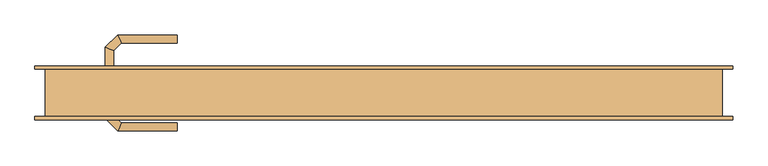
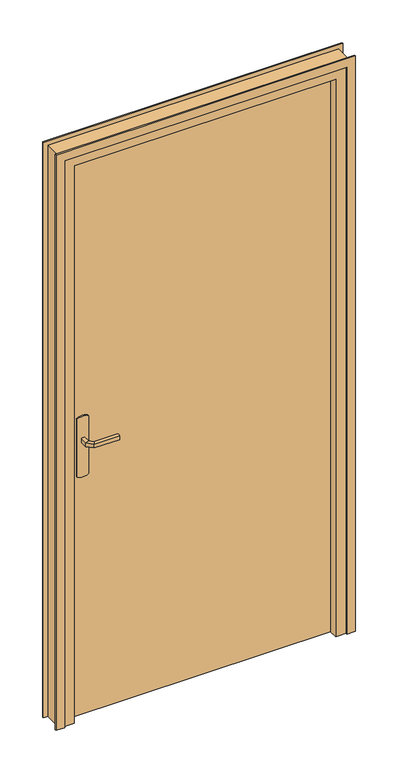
"""IFC4 building model written with IfcOpenShell, lengths in millimetres: door geometry, @_Int. Simple : @_PP (0.93m x 2.04m)."""

from ifc_helpers import new_model, si_unit, point, frame, frame_2d, origin, origin_with_axes, place, context, project, spatial, polyline, circle_curve, ellipse_curve, trimmed, segment, composite_curve, outline, extrude, faceted_brep, source, transform, mapped, element, save
from ifc_brep_helpers import plane_surface, cylinder_surface, advanced_brep


def door_e56fa8e8(model_context):
    return source(origin(), model_context, "Body", "SolidModel", [
        extrude(outline(composite_curve([segment(trimmed(circle_curve(frame_2d((904.6410162, -440.0)), 40.0), [point((870.0, -460.0))], [point((870.0, -420.0))], False, "CARTESIAN"), True, "CONTINUOUS"), segment(polyline([(870.0, -420.0), (1080.0, -420.0)]), True, "CONTINUOUS"), segment(trimmed(circle_curve(frame_2d((1045.3589838, -440.0)), 40.0), [point((1080.0, -420.0))], [point((1080.0, -460.0))], False, "CARTESIAN"), True, "CONTINUOUS"), segment(polyline([(1080.0, -460.0), (870.0, -460.0)]), True, "CONTINUOUS")], self_intersect=False)), frame((0.0, 35.0, 0.0), z_axis=(0.0, 1.0, 0.0), x_axis=(0.0, 0.0, 1.0)), (0.0, 0.0, 1.0), 5.0),
        extrude(outline(composite_curve([segment(trimmed(circle_curve(frame_2d((1045.3589838, -440.0)), 40.0), [point((1080.0, -420.0))], [point((1080.0, -460.0))], False, "CARTESIAN"), True, "CONTINUOUS"), segment(polyline([(1080.0, -460.0), (870.0, -460.0)]), True, "CONTINUOUS"), segment(trimmed(circle_curve(frame_2d((904.6410162, -440.0)), 40.0), [point((870.0, -460.0))], [point((870.0, -420.0))], False, "CARTESIAN"), True, "CONTINUOUS"), segment(polyline([(870.0, -420.0), (1080.0, -420.0)]), True, "CONTINUOUS")], self_intersect=False)), frame((0.0, -10.0, 0.0), z_axis=(0.0, 1.0, 0.0), x_axis=(0.0, 0.0, 1.0)), (0.0, 0.0, 1.0), 5.0),
        advanced_brep(
        [(-446.0, 40.0, 1007.0), (-446.0, 40.0, 993.0), (-434.0, 40.0, 993.0), (-434.0, 40.0, 1007.0), (-434.0, 62.680388, 1007.0), (-446.0, 67.6509507, 1007.0), (-434.0, 62.680388, 993.0), (-446.0, 67.6509507, 993.0), (-422.6522273, 74.0281607, 1007.0), (-427.62279, 86.0281607, 1007.0), (-422.6522273, 74.0281607, 993.0), (-427.62279, 86.0281607, 993.0), (-339.9813594, 86.0281607, 1007.0), (-339.9813594, 74.0281607, 1007.0), (-339.9813594, 74.0281607, 993.0), (-339.9813594, 86.0281607, 993.0)],
        [
            (0, 1),
            (1, 2, circle_curve(frame((-440.0, 40.0, 1013.0457722), z_axis=(0.0, -1.0, 0.0), x_axis=(1.0, 0.0, 0.0)), 20.9244589)),
            (2, 3),
            (3, 0, circle_curve(frame((-440.0, 40.0, 986.9542278), z_axis=(0.0, -1.0, 0.0), x_axis=(1.0, 0.0, 0.0)), 20.9244589)),
            (3, 4),
            (4, 5, ellipse_curve(frame((-440.0, 65.1656693, 986.9542278), z_axis=(-0.3826834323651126, -0.9238795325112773, 0.0), x_axis=(0.9238795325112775, -0.38268343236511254, 0.0)), 22.6484711, 20.9244589)),
            (5, 0),
            (2, 6),
            (6, 4),
            (1, 7),
            (7, 6, ellipse_curve(frame((-440.0, 65.1656693, 1013.0457722), z_axis=(-0.3826834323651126, -0.9238795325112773, 0.0), x_axis=(0.9238795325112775, -0.38268343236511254, 0.0)), 22.6484711, 20.9244589)),
            (5, 7),
            (4, 8),
            (8, 9, ellipse_curve(frame((-425.1375086, 80.0281607, 986.9542278), z_axis=(-0.9238795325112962, -0.38268343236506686, 0.0), x_axis=(0.3826834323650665, -0.9238795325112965, 0.0)), 22.6484711, 20.9244589)),
            (9, 5),
            (6, 10),
            (10, 8),
            (7, 11),
            (11, 10, ellipse_curve(frame((-425.1375086, 80.0281607, 1013.0457722), z_axis=(-0.9238795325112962, -0.38268343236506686, 0.0), x_axis=(0.3826834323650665, -0.9238795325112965, 0.0)), 22.6484711, 20.9244589)),
            (9, 11),
            (12, 13, circle_curve(frame((-339.9813594, 80.0281607, 986.9542278), z_axis=(1.0, 0.0, 0.0), x_axis=(0.0, -1.0, 0.0)), 20.9244589)),
            (13, 14),
            (14, 15, circle_curve(frame((-339.9813594, 80.0281607, 1013.0457722), z_axis=(1.0, 0.0, 0.0), x_axis=(0.0, -1.0, 0.0)), 20.9244589)),
            (15, 12),
            (8, 13),
            (12, 9),
            (10, 14),
            (11, 15),
        ],
        [
            plane_surface(frame((-449.2195445, 40.0, 1000.0), z_axis=(0.0, -1.0, 0.0), x_axis=(0.0, 0.0, -1.0))),
            cylinder_surface(frame((-440.0, 40.0, 986.9542278), z_axis=(0.0, -1.0, 0.0), x_axis=(1.0, 0.0, 0.0)), 20.9244589),
            plane_surface(frame((-434.0, 40.0, 1007.0), z_axis=(1.0, 0.0, 0.0), x_axis=(0.0, 1.0, 0.0))),
            cylinder_surface(frame((-440.0, 40.0, 1013.0457722), z_axis=(0.0, -1.0, 0.0), x_axis=(1.0, 0.0, 0.0)), 20.9244589),
            plane_surface(frame((-446.0, 40.0, 993.0), z_axis=(-1.0, 0.0, 0.0), x_axis=(0.0, 1.0, 0.0))),
            cylinder_surface(frame((-440.0, 65.1656693, 986.9542278), z_axis=(-0.7071067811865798, -0.7071067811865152, 0.0), x_axis=(0.7071067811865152, -0.7071067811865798, 0.0)), 20.9244589),
            plane_surface(frame((-434.0, 62.680388, 1007.0), z_axis=(0.7071067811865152, -0.7071067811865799, 0.0), x_axis=(0.7071067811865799, 0.7071067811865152, 0.0))),
            cylinder_surface(frame((-440.0, 65.1656693, 1013.0457722), z_axis=(-0.7071067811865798, -0.7071067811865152, 0.0), x_axis=(0.7071067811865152, -0.7071067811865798, 0.0)), 20.9244589),
            plane_surface(frame((-446.0, 67.6509507, 993.0), z_axis=(-0.7071067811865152, 0.7071067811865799, 0.0), x_axis=(0.7071067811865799, 0.7071067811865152, 0.0))),
            plane_surface(frame((-339.9813594, 80.0281607, 990.7804555), z_axis=(1.0, 0.0, 0.0), x_axis=(0.0, -1.0, 0.0))),
            cylinder_surface(frame((-425.1375086, 80.0281607, 986.9542278), z_axis=(-1.0, 0.0, 0.0), x_axis=(0.0, -1.0, 0.0)), 20.9244589),
            plane_surface(frame((-422.6522273, 74.0281607, 1007.0), z_axis=(0.0, -1.0, 0.0), x_axis=(1.0, 0.0, 0.0))),
            cylinder_surface(frame((-425.1375086, 80.0281607, 1013.0457722), z_axis=(-1.0, 0.0, 0.0), x_axis=(0.0, -1.0, 0.0)), 20.9244589),
            plane_surface(frame((-427.62279, 86.0281607, 993.0), z_axis=(0.0, 1.0, 0.0), x_axis=(1.0, 0.0, 0.0))),
        ],
        [
            (0, [[1, 2, 3, 4]]),
            (1, [[5, 6, 7, -4]]),
            (2, [[8, 9, -5, -3]]),
            (3, [[10, 11, -8, -2]]),
            (4, [[-7, 12, -10, -1]]),
            (5, [[13, 14, 15, -6]]),
            (6, [[16, 17, -13, -9]]),
            (7, [[18, 19, -16, -11]]),
            (8, [[-15, 20, -18, -12]]),
            (9, [[21, 22, 23, 24]]),
            (10, [[25, -21, 26, -14]]),
            (11, [[27, -22, -25, -17]]),
            (12, [[28, -23, -27, -19]]),
            (13, [[-26, -24, -28, -20]]),
        ],
    ),
        advanced_brep(
        [(-434.0, -10.0, 993.0), (-446.0, -10.0, 993.0), (-446.0, -10.0, 1007.0), (-434.0, -10.0, 1007.0), (-434.0, -32.4852045, 1007.0), (-434.0, -32.4852045, 993.0), (-446.0, -37.4557673, 1007.0), (-446.0, -37.4557673, 993.0), (-422.5147186, -43.9704859, 1007.0), (-422.5147186, -43.9704859, 993.0), (-427.4852814, -55.9704859, 1007.0), (-427.4852814, -55.9704859, 993.0), (-339.9542163, -43.9704859, 993.0), (-339.9542163, -43.9704859, 1007.0), (-339.9542163, -55.9704859, 1007.0), (-339.9542163, -55.9704859, 993.0)],
        [
            (0, 1, circle_curve(frame((-440.0, -10.0, 1013.0457722), z_axis=(0.0, 1.0, 0.0), x_axis=(-1.0, 0.0, 0.0)), 20.9244589)),
            (1, 2),
            (2, 3, circle_curve(frame((-440.0, -10.0, 986.9542278), z_axis=(0.0, 1.0, 0.0), x_axis=(-1.0, 0.0, 0.0)), 20.9244589)),
            (3, 0),
            (3, 4),
            (4, 5),
            (5, 0),
            (2, 6),
            (6, 4, ellipse_curve(frame((-440.0, -34.9704859, 986.9542278), z_axis=(-0.3826834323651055, 0.9238795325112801, 0.0), x_axis=(0.9238795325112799, 0.3826834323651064, 0.0)), 22.6484711, 20.9244589)),
            (1, 7),
            (7, 6),
            (5, 7, ellipse_curve(frame((-440.0, -34.9704859, 1013.0457722), z_axis=(-0.3826834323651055, 0.9238795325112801, 0.0), x_axis=(0.9238795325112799, 0.3826834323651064, 0.0)), 22.6484711, 20.9244589)),
            (4, 8),
            (8, 9),
            (9, 5),
            (6, 10),
            (10, 8, ellipse_curve(frame((-425.0, -49.9704859, 986.9542278), z_axis=(-0.9238795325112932, 0.382683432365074, 0.0), x_axis=(0.3826834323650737, 0.9238795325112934, 0.0)), 22.6484711, 20.9244589)),
            (7, 11),
            (11, 10),
            (9, 11, ellipse_curve(frame((-425.0, -49.9704859, 1013.0457722), z_axis=(-0.9238795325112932, 0.382683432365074, 0.0), x_axis=(0.3826834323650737, 0.9238795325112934, 0.0)), 22.6484711, 20.9244589)),
            (12, 13),
            (13, 14, circle_curve(frame((-339.9542163, -49.9704859, 986.9542278), z_axis=(1.0, 0.0, 0.0), x_axis=(0.0, -1.0, 0.0)), 20.9244589)),
            (14, 15),
            (15, 12, circle_curve(frame((-339.9542163, -49.9704859, 1013.0457722), z_axis=(1.0, 0.0, 0.0), x_axis=(0.0, -1.0, 0.0)), 20.9244589)),
            (8, 13),
            (12, 9),
            (10, 14),
            (11, 15),
        ],
        [
            plane_surface(frame((-449.2195445, -10.0, 1000.0), z_axis=(0.0, 1.0, 0.0), x_axis=(0.0, 0.0, 1.0))),
            plane_surface(frame((-434.0, -10.0, 993.0), z_axis=(1.0, 0.0, 0.0), x_axis=(0.0, -1.0, 0.0))),
            cylinder_surface(frame((-440.0, -10.0, 986.9542278), z_axis=(0.0, 1.0, 0.0), x_axis=(-1.0, 0.0, 0.0)), 20.9244589),
            plane_surface(frame((-446.0, -10.0, 1007.0), z_axis=(-1.0, 0.0, 0.0), x_axis=(0.0, -1.0, 0.0))),
            cylinder_surface(frame((-440.0, -10.0, 1013.0457722), z_axis=(0.0, 1.0, 0.0), x_axis=(-1.0, 0.0, 0.0)), 20.9244589),
            plane_surface(frame((-434.0, -32.4852045, 993.0), z_axis=(0.7071067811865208, 0.7071067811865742, 0.0), x_axis=(0.7071067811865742, -0.7071067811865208, 0.0))),
            cylinder_surface(frame((-440.0, -34.9704859, 986.9542278), z_axis=(-0.7071067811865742, 0.7071067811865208, 0.0), x_axis=(-0.7071067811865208, -0.7071067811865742, 0.0)), 20.9244589),
            plane_surface(frame((-446.0, -37.4557673, 1007.0), z_axis=(-0.7071067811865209, -0.7071067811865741, 0.0), x_axis=(0.7071067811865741, -0.7071067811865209, 0.0))),
            cylinder_surface(frame((-440.0, -34.9704859, 1013.0457722), z_axis=(-0.7071067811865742, 0.7071067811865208, 0.0), x_axis=(-0.7071067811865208, -0.7071067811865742, 0.0)), 20.9244589),
            plane_surface(frame((-339.9542163, -49.9704859, 990.7804555), z_axis=(1.0, 0.0, 0.0), x_axis=(0.0, -1.0, 0.0))),
            plane_surface(frame((-422.5147186, -43.9704859, 993.0), z_axis=(0.0, 1.0, 0.0), x_axis=(1.0, 0.0, 0.0))),
            cylinder_surface(frame((-425.0, -49.9704859, 986.9542278), z_axis=(-1.0, 0.0, 0.0), x_axis=(0.0, -1.0, 0.0)), 20.9244589),
            plane_surface(frame((-427.4852814, -55.9704859, 1007.0), z_axis=(0.0, -1.0, 0.0), x_axis=(1.0, 0.0, 0.0))),
            cylinder_surface(frame((-425.0, -49.9704859, 1013.0457722), z_axis=(-1.0, 0.0, 0.0), x_axis=(0.0, -1.0, 0.0)), 20.9244589),
        ],
        [
            (0, [[1, 2, 3, 4]]),
            (1, [[5, 6, 7, -4]]),
            (2, [[8, 9, -5, -3]]),
            (3, [[10, 11, -8, -2]]),
            (4, [[-7, 12, -10, -1]]),
            (5, [[13, 14, 15, -6]]),
            (6, [[16, 17, -13, -9]]),
            (7, [[18, 19, -16, -11]]),
            (8, [[-15, 20, -18, -12]]),
            (9, [[21, 22, 23, 24]]),
            (10, [[25, -21, 26, -14]]),
            (11, [[27, -22, -25, -17]]),
            (12, [[28, -23, -27, -19]]),
            (13, [[-26, -24, -28, -20]]),
        ],
    ),
        extrude(outline(polyline([(-500.0, -5.0), (-500.0, 35.0), (430.0, 35.0), (430.0, -5.0), (-500.0, -5.0)])), origin_with_axes(), (0.0, 0.0, 1.0), 2040.0),
        faceted_brep([(-535.0, 35.0, 0.0), (-500.0, 35.0, 0.0), (-500.0, -5.0, 0.0), (-485.0, -5.0, 0.0), (-485.0, -35.0, 0.0), (-535.0, -35.0, 0.0), (-535.0, -35.0, 2075.0), (-535.0, 35.0, 2075.0), (-485.0, -35.0, 2025.0), (415.0, -35.0, 2025.0), (415.0, -35.0, 0.0), (465.0, -35.0, 0.0), (465.0, -35.0, 2075.0), (-485.0, -5.0, 2025.0), (-500.0, -5.0, 2040.0), (430.0, -5.0, 2040.0), (430.0, -5.0, 0.0), (415.0, -5.0, 0.0), (415.0, -5.0, 2025.0), (-500.0, 35.0, 2040.0), (465.0, 35.0, 2075.0), (465.0, 35.0, 0.0), (430.0, 35.0, 0.0), (430.0, 35.0, 2040.0)], [[[0, 1, 2, 3, 4, 5]], [[5, 6, 7, 0]], [[4, 8, 9, 10, 11, 12, 6, 5]], [[3, 13, 8, 4]], [[2, 14, 15, 16, 17, 18, 13, 3]], [[1, 19, 14, 2]], [[0, 7, 20, 21, 22, 23, 19, 1]], [[12, 11, 21, 20]], [[21, 11, 10, 17, 16, 22]], [[18, 17, 10, 9]], [[23, 22, 16, 15]], [[6, 12, 20, 7]], [[13, 18, 9, 8]], [[19, 23, 15, 14]]]),
        extrude(outline(polyline([(0.0, -520.0), (2060.0, -520.0), (2060.0, 450.0), (0.0, 450.0), (0.0, 480.0), (2090.0, 480.0), (2090.0, -550.0), (0.0, -550.0), (0.0, -520.0)])), frame((0.0, 35.0, 0.0), z_axis=(0.0, 1.0, 0.0), x_axis=(0.0, 0.0, 1.0)), (0.0, 0.0, 1.0), 5.0),
        extrude(outline(polyline([(0.0, -520.0), (2060.0, -520.0), (2060.0, 450.0), (0.0, 450.0), (0.0, 480.0), (2090.0, 480.0), (2090.0, -550.0), (0.0, -550.0), (0.0, -520.0)])), frame((0.0, -40.0, 0.0), z_axis=(0.0, 1.0, 0.0), x_axis=(0.0, 0.0, 1.0)), (0.0, 0.0, 1.0), 5.0),
    ])


if __name__ == "__main__":
    model = new_model("IFC4")
    model_context = context("Model", 3, world=origin())
    ifc_project = project(units=[si_unit("LENGTHUNIT", "METRE", prefix="MILLI")], contexts=[model_context])
    site = spatial("IfcSite", under=ifc_project)
    building = spatial("IfcBuilding", under=site)
    placement = place(None, origin())
    door_shape = door_e56fa8e8(model_context)
    element("IfcDoor", 1, ObjectType="@_Int. Simple : @_PP (0.93m x 2.04m)", at=placement, inside=building, context=model_context, shape_type="MappedRepresentation", body=[
        mapped(door_shape, transform((0.0, 0.0, 0.0), x_axis=(1.0, 0.0, 0.0), y_axis=(0.0, 1.0, 0.0), z_axis=(0.0, 0.0, 1.0))),
    ])
    save(model, "model.ifc")
